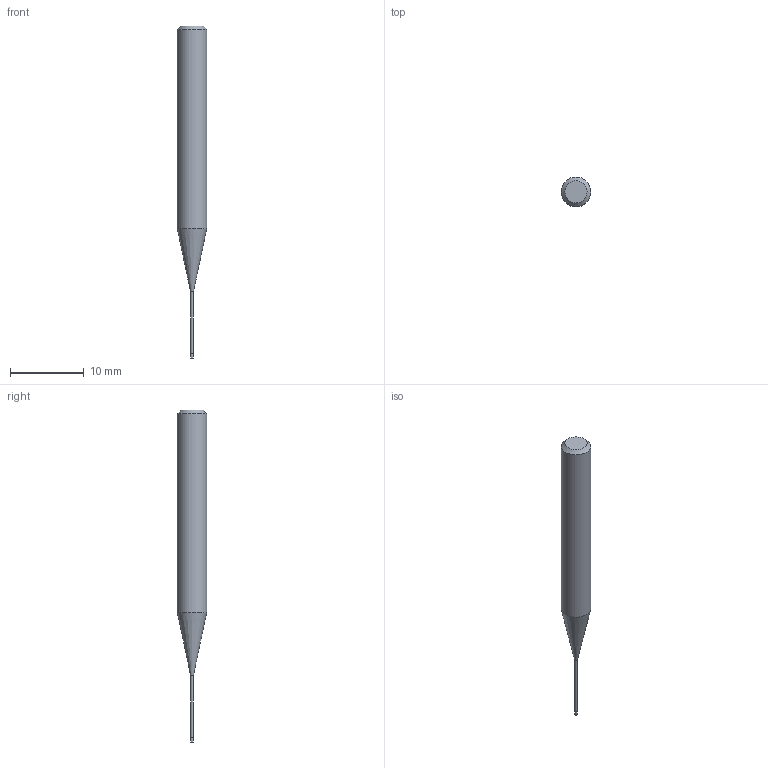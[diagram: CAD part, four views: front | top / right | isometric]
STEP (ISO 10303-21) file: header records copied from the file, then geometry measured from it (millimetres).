
FILE_DESCRIPTION((''),'2;1');
FILE_NAME('C:\Users\nsx150\AppData\Local\Temp\Mastercam 2021\17T8Q8S9EB\TEMP.step','2021-04-21T14:24:11',(''),(''),'STEP Write','Mastercam 2021 ... CNC Software, Inc.','');
FILE_SCHEMA(('AUTOMOTIVE_DESIGN'));
Length unit declared in the file: millimetre
Products named in the file (1): None
Bounding box: 4 x 4 x 45 mm (x, y, z)
Volume: 384 mm3; surface area: 424.4 mm2
Topology: 2 solids, 2 shells, 9 faces, 12 edges, 7 vertices
Faces by surface type: plane 4, cylinder 3, cone 2
Full cylindrical faces by diameter (mm): 0.37 x1, 0.4 x1, 4 x1
Entity records: 211 total; most frequent: DIRECTION 36, CARTESIAN_POINT 25, AXIS2_PLACEMENT_3D 18, ORIENTED_EDGE 14, EDGE_LOOP 14, STYLED_ITEM 12, ADVANCED_FACE 9, FACE_BOUND 8
